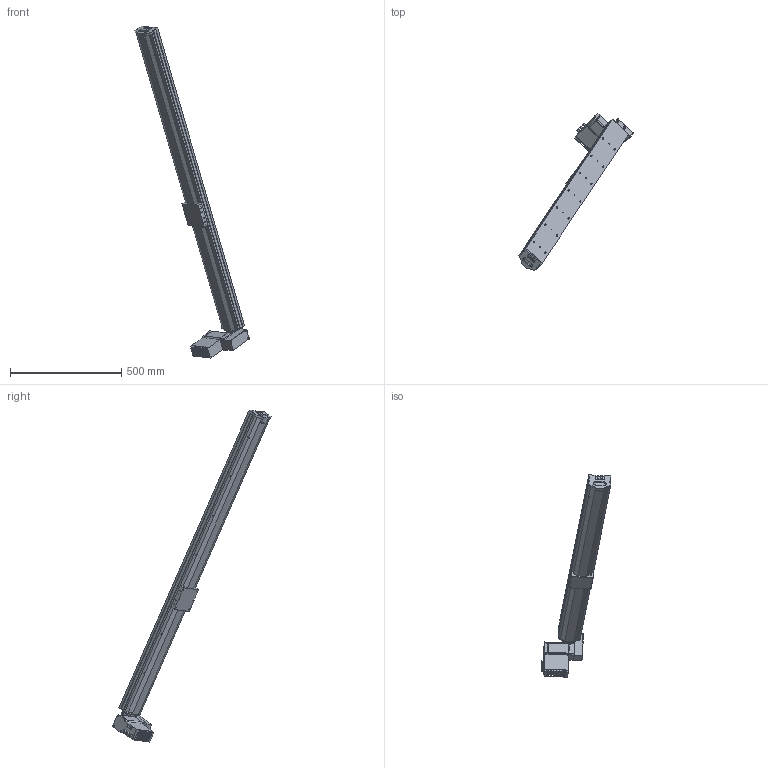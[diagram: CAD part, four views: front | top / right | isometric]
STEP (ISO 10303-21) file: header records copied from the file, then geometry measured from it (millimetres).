
FILE_DESCRIPTION (( 'STEP AP203' ), '1' );
FILE_NAME ('S10 CBH RT S1500.STEP', '2012-10-01T11:49:04', ( '' ), ( '' ), 'SwSTEP 2.0', 'SolidWorks 2010', '' );
FILE_SCHEMA (( 'CONFIG_CONTROL_DESIGN' ));
Length unit declared in the file: millimetre
Products named in the file (9): moteur M3; S10 CBH RT S1500; MOTEUR GMI 61 ; axe 1500; Plaque racord_; moteur M3_1; plaque de bout; embout; palette tbh
Assembly tree (7 placements, depth 3):
  moteur M3
  S10 CBH RT S1500
    embout
    palette tbh
    plaque de bout
      moteur M3_1
      Plaque racord_
    axe 1500
    MOTEUR GMI 61 
Bounding box: 515.74 x 709.8 x 1491.2 mm (x, y, z)
Volume: 8789927.6 mm3; surface area: 888949.1 mm2
Topology: 5 solids, 18 shells, 767 faces, 1994 edges, 1252 vertices
Faces by surface type: plane 381, cylinder 277, cone 74, torus 23, bspline 8, sphere 4
Entity records: 26577 total; most frequent: CARTESIAN_POINT 6827, DIRECTION 3997, ORIENTED_EDGE 3740, EDGE_CURVE 1920, AXIS2_PLACEMENT_3D 1378, VERTEX_POINT 1252, LINE 1241, VECTOR 1241
